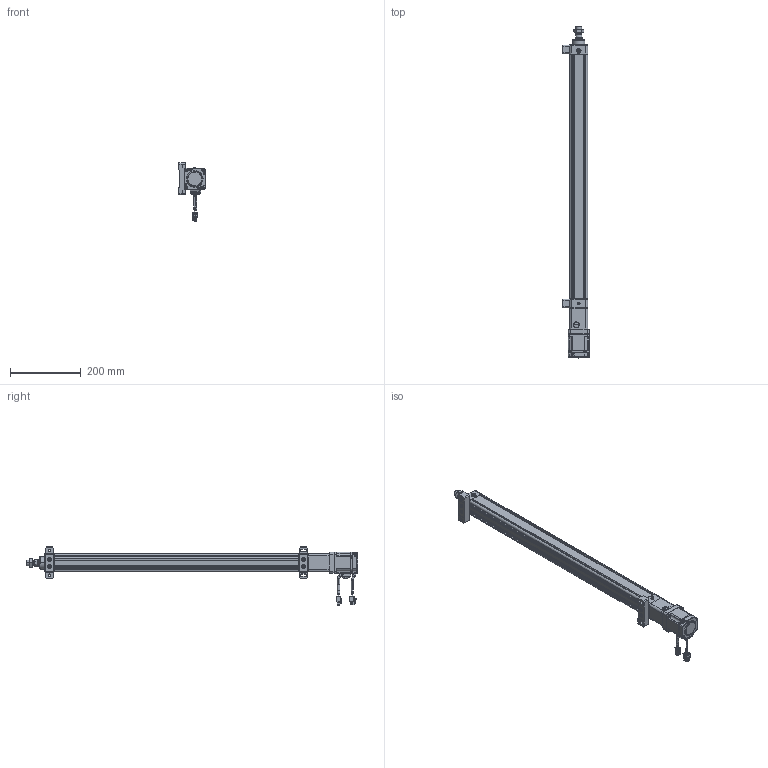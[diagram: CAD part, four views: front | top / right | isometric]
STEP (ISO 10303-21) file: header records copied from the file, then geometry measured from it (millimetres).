
FILE_DESCRIPTION((''),'2;1');
FILE_NAME('HE40-D-100_ASM','2020-05-09T',('ASUS20200'),(''),'CREO PARAMETRIC BY PTC INC, 2014190','CREO PARAMETRIC BY PTC INC, 2014190','');
FILE_SCHEMA(('CONFIG_CONTROL_DESIGN'));
Products named in the file (28): HE40-D-P-001-X1; HE40-D-P-002-X1; HE40-D-P-003-X1; 6200ZZ; HE40-D-009-X1; HE40-D-010-X1; _MHMF022L1A2; _CABLE_MOTOR_BOTTOM_03; _CABLE_MOTOR_TOP_03; _MOTOR_CONNECTOR_2; _CABLE_BRAKE_BOTTOM_03; _CABLE_BRAKE_TOP_03; _MHMF_CONNECTOR_9_PIN_A6; MHMF022L1A2M2_1_ASM; MHMF022L1A2M2_ASM; SLM-01; YZ-M6X1; JDB202820; SKT-13; JX5X5X20; HE40-P-015-X1; HE40-P-016-X1; M6X20; HE40-D-P-005-X1; HE40-D-P-004-X1; HE40-D-P-008-X1; LGLM-M6-22; HE40-D-100_ASM
Assembly tree (33 placements, depth 4):
  HE40-D-100_ASM
    HE40-D-P-001-X1
    HE40-D-P-002-X1
    HE40-D-P-003-X1
    6200ZZ
    HE40-D-009-X1
    HE40-D-010-X1
    MHMF022L1A2M2_ASM
      MHMF022L1A2M2_1_ASM
        _MHMF022L1A2
        _CABLE_MOTOR_BOTTOM_03
        _CABLE_MOTOR_TOP_03
        _MOTOR_CONNECTOR_2
        _CABLE_BRAKE_BOTTOM_03
        _CABLE_BRAKE_TOP_03
        _MHMF_CONNECTOR_9_PIN_A6
    SLM-01
    YZ-M6X1
    JDB202820
    SKT-13
    JX5X5X20
    HE40-P-015-X1
    HE40-P-016-X1
    M6X20  x4
    HE40-D-P-005-X1
    HE40-D-P-004-X1
    HE40-D-P-008-X1
    LGLM-M6-22  x4
Bounding box: 75.5 x 938.5 x 164.2 mm (x, y, z)
Volume: 1283115.7 mm3; surface area: 502113.8 mm2
Topology: 31 solids, 60 shells, 2586 faces, 6269 edges, 3871 vertices
Faces by surface type: plane 1105, cylinder 749, cone 590, torus 102, sphere 36, bspline 4
Entity records: 72034 total; most frequent: CARTESIAN_POINT 13571, DIRECTION 12790, ORIENTED_EDGE 11526, EDGE_CURVE 5815, AXIS2_PLACEMENT_3D 4737, VERTEX_POINT 3625, VECTOR 3316, LINE 3316
